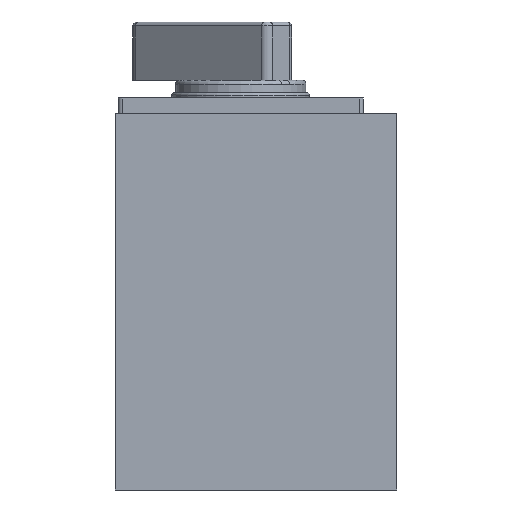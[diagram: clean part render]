
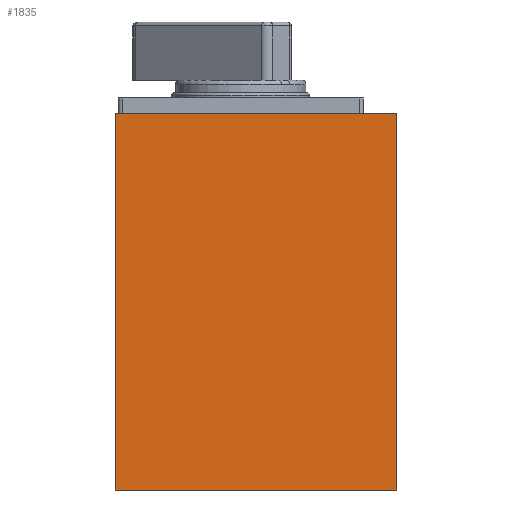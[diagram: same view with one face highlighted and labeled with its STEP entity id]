
A CAD part, left-side view. The second image highlights one B-rep face of the part: STEP entity #1835.
In plain terms, the highlighted planar face has unit normal (-1, 0, 0).
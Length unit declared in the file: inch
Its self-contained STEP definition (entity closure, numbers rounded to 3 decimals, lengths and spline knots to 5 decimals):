
#125=PLANE('',#2014);
#314=LINE('',#3069,#505);
#315=LINE('',#3072,#506);
#316=LINE('',#3074,#507);
#317=LINE('',#3075,#508);
#505=VECTOR('',#2515,0.3937);
#506=VECTOR('',#2518,0.3937);
#507=VECTOR('',#2519,0.3937);
#508=VECTOR('',#2520,0.3937);
#632=FACE_OUTER_BOUND('',#745,.T.);
#745=EDGE_LOOP('',(#1699,#1700,#1701,#1702));
#973=VERTEX_POINT('',#3065);
#974=VERTEX_POINT('',#3067);
#975=VERTEX_POINT('',#3071);
#976=VERTEX_POINT('',#3073);
#1223=EDGE_CURVE('',#973,#974,#314,.T.);
#1224=EDGE_CURVE('',#973,#975,#315,.T.);
#1225=EDGE_CURVE('',#976,#974,#316,.T.);
#1226=EDGE_CURVE('',#975,#976,#317,.T.);
#1699=ORIENTED_EDGE('',*,*,#1224,.F.);
#1700=ORIENTED_EDGE('',*,*,#1223,.T.);
#1701=ORIENTED_EDGE('',*,*,#1225,.F.);
#1702=ORIENTED_EDGE('',*,*,#1226,.F.);
#1835=ADVANCED_FACE('',(#632),#125,.T.);
#2014=AXIS2_PLACEMENT_3D('',#3070,#2516,#2517);
#2515=DIRECTION('',(0.,0.,1.));
#2516=DIRECTION('center_axis',(-1.,0.,0.));
#2517=DIRECTION('ref_axis',(0.,-1.,0.));
#2518=DIRECTION('',(0.,1.,0.));
#2519=DIRECTION('',(0.,-1.,0.));
#2520=DIRECTION('',(0.,0.,1.));
#3065=CARTESIAN_POINT('',(0.,-1.74736,0.));
#3067=CARTESIAN_POINT('',(0.,-1.74736,2.9));
#3069=CARTESIAN_POINT('',(0.,-1.74736,0.));
#3070=CARTESIAN_POINT('Origin',(0.,0.42264,0.));
#3071=CARTESIAN_POINT('',(0.,0.42264,0.));
#3072=CARTESIAN_POINT('',(0.,-1.74736,0.));
#3073=CARTESIAN_POINT('',(0.,0.42264,2.9));
#3074=CARTESIAN_POINT('',(0.,-1.74736,2.9));
#3075=CARTESIAN_POINT('',(0.,0.42264,0.));
